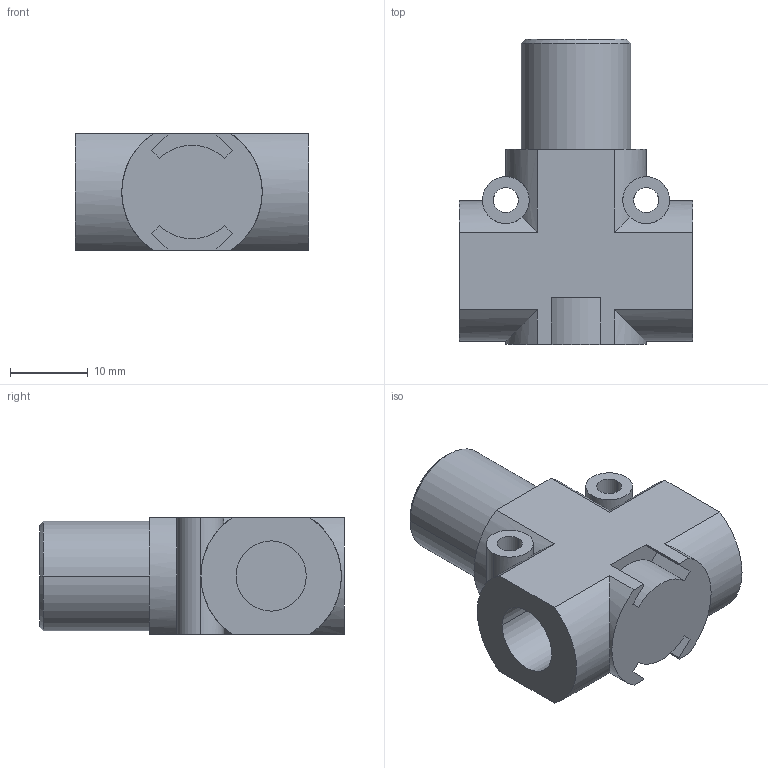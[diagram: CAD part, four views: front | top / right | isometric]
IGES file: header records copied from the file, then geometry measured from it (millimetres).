
Global section: file name: No Iges File Name specified; native system: Autodesk Inventor 2009; preprocessor: AutoDesk Inventor Iges Exporter R2009; author: rivolro1; date: 20090430.143911; units: millimetre
Bounding box: 30 x 39.1 x 15 mm (x, y, z)
Volume: 9805.9 mm3; surface area: 4715 mm2
Topology: 1 solids, 2 shells, 63 faces, 162 edges, 105 vertices
Faces by surface type: bspline 20, plane 20, cylinder 15, revolution 6, cone 2
